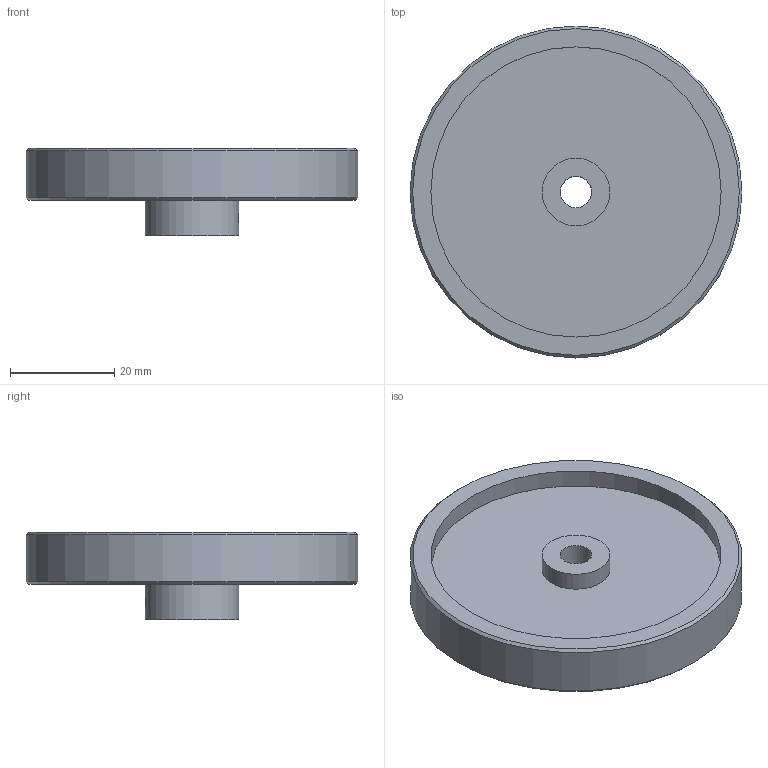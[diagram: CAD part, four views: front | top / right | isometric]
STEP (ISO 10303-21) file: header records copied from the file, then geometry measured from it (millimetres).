
FILE_DESCRIPTION(('Open CASCADE Model'),'2;1');
FILE_NAME('Open CASCADE Shape Model','2026-10-14T11:28:46',('Author'),( 'Open CASCADE'),'Open CASCADE STEP processor 7.9','Open CASCADE 7.9' ,'Unknown');
FILE_SCHEMA(('AUTOMOTIVE_DESIGN { 1 0 10303 214 1 1 1 1 }'));
Length unit declared in the file: millimetre
Products named in the file (1): Open CASCADE STEP translator 7.9 1
Bounding box: 63.66 x 63.66 x 16.78 mm (x, y, z)
Volume: 17294.4 mm3; surface area: 10532.3 mm2
Topology: 1 solids, 1 shells, 16 faces, 32 edges, 20 vertices
Faces by surface type: cylinder 8, plane 6, cone 2
Full cylindrical faces by diameter (mm): 2.5 x2, 6 x1, 13 x1, 18 x1, 55.662 x2, 63.662 x1
Entity records: 1656 total; most frequent: CARTESIAN_POINT 989, DIRECTION 118, ORIENTED_EDGE 64, PCURVE 64, DEFINITIONAL_REPRESENTATION 64, LINE 48, VECTOR 48, EDGE_CURVE 32
